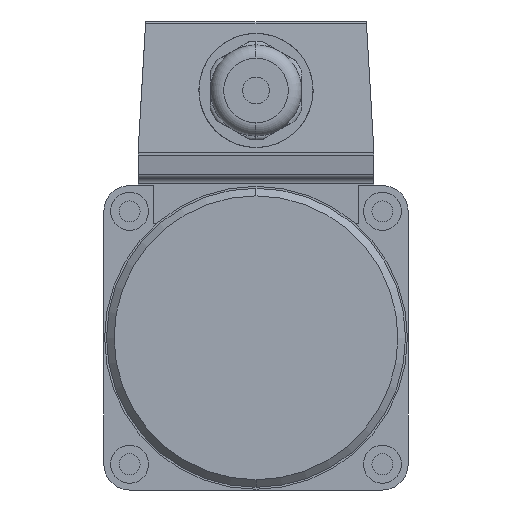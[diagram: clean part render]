
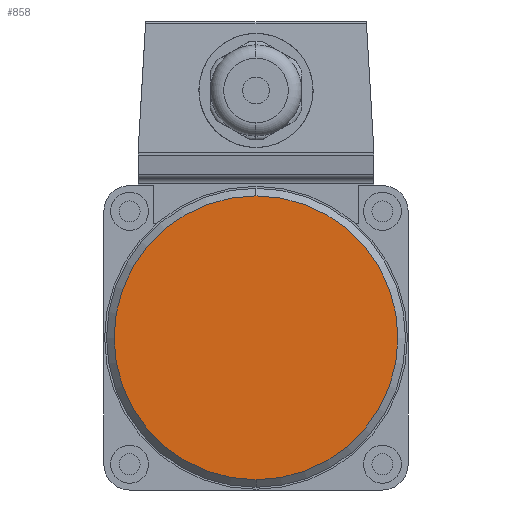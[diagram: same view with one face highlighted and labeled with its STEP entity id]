
A CAD part, left-side view. The second image highlights one B-rep face of the part: STEP entity #858.
In plain terms, the highlighted planar face has unit normal (-1, 0, 0).
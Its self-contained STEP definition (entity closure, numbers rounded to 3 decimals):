
#838=CARTESIAN_POINT('POINT536111',(-117.,0.,
   22.3));
#839=VERTEX_POINT('VERTEX536111',#838);
#840=CARTESIAN_POINT('POINT536112',(-117.,0.,
   -52.3));
#841=VERTEX_POINT('VERTEX536112',#840);
#842=CARTESIAN_POINT('POS879262',(-117.,0.,-15.));
#843=DIRECTION('DIR1291041',(1.,0.,0.));
#844=DIRECTION('DIR1291042',(0.,0.,1.));
#845=AXIS2_PLACEMENT_3D('AXIS411780',#842,#843,#844);
#846=CIRCLE('ELLIPSE174841',#845,37.3);
#847=EDGE_CURVE('EDGE828939',#839,#841,#846,.T.);
#848=ORIENTED_EDGE('COEDGE1658433',*,*,#847,.F.);
#849=EDGE_CURVE('EDGE828940',#841,#839,#846,.T.);
#850=ORIENTED_EDGE('COEDGE1658434',*,*,#849,.F.);
#851=EDGE_LOOP('NONE',(#848,#850));
#852=FACE_BOUND('LOOP1',#851,.T.);
#853=CARTESIAN_POINT('POS879263',(-117.,0.,
   3.65));
#854=DIRECTION('DIR1291043',(-1.,0.,0.));
#855=DIRECTION('DIR1291044',(0.,1.,0.));
#856=AXIS2_PLACEMENT_3D('AXIS411781',#853,#854,#855);
#857=PLANE('PLANE159267',#856);
#858=ADVANCED_FACE('FACE328565',(#852),#857,.T.);
